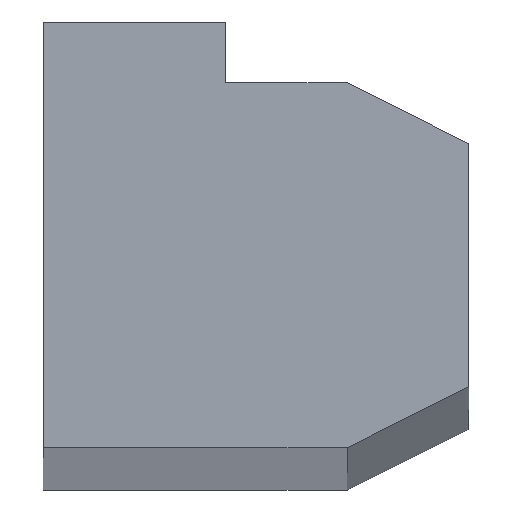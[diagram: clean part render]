
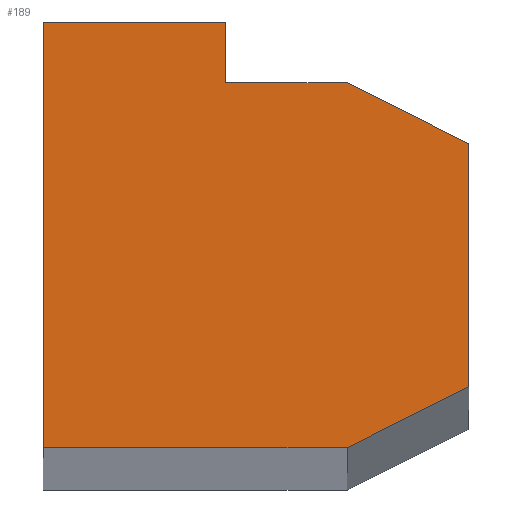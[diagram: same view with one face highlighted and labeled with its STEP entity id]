
A CAD part, top view. The second image highlights one B-rep face of the part: STEP entity #189.
In plain terms, the highlighted planar face has unit normal (0, 0, 1).
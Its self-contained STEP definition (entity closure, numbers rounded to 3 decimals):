
#23=FACE_OUTER_BOUND('',#33,.T.);
#33=EDGE_LOOP('',(#155,#156,#157,#158,#159,#160,#161,#162));
#35=LINE('',#253,#59);
#39=LINE('',#261,#63);
#42=LINE('',#267,#66);
#45=LINE('',#273,#69);
#48=LINE('',#279,#72);
#51=LINE('',#285,#75);
#54=LINE('',#291,#78);
#57=LINE('',#296,#81);
#59=VECTOR('',#207,2.5);
#63=VECTOR('',#213,1.118);
#66=VECTOR('',#218,2.);
#69=VECTOR('',#223,1.118);
#72=VECTOR('',#228,1.);
#75=VECTOR('',#233,0.5);
#78=VECTOR('',#238,1.5);
#81=VECTOR('',#243,3.5);
#83=VERTEX_POINT('',#251);
#84=VERTEX_POINT('',#252);
#87=VERTEX_POINT('',#260);
#89=VERTEX_POINT('',#266);
#91=VERTEX_POINT('',#272);
#93=VERTEX_POINT('',#278);
#95=VERTEX_POINT('',#284);
#97=VERTEX_POINT('',#290);
#99=EDGE_CURVE('',#83,#84,#35,.T.);
#103=EDGE_CURVE('',#84,#87,#39,.T.);
#106=EDGE_CURVE('',#87,#89,#42,.T.);
#109=EDGE_CURVE('',#89,#91,#45,.T.);
#112=EDGE_CURVE('',#91,#93,#48,.T.);
#115=EDGE_CURVE('',#93,#95,#51,.T.);
#118=EDGE_CURVE('',#95,#97,#54,.T.);
#121=EDGE_CURVE('',#97,#83,#57,.T.);
#155=ORIENTED_EDGE('',*,*,#121,.T.);
#156=ORIENTED_EDGE('',*,*,#99,.T.);
#157=ORIENTED_EDGE('',*,*,#103,.T.);
#158=ORIENTED_EDGE('',*,*,#106,.T.);
#159=ORIENTED_EDGE('',*,*,#109,.T.);
#160=ORIENTED_EDGE('',*,*,#112,.T.);
#161=ORIENTED_EDGE('',*,*,#115,.T.);
#162=ORIENTED_EDGE('',*,*,#118,.T.);
#179=PLANE('',#201);
#189=ADVANCED_FACE('',(#23),#179,.T.);
#201=AXIS2_PLACEMENT_3D('',#298,#245,#246);
#207=DIRECTION('',(1.,0.,0.));
#213=DIRECTION('',(0.894,0.447,0.));
#218=DIRECTION('',(0.,1.,0.));
#223=DIRECTION('',(-0.894,0.447,0.));
#228=DIRECTION('',(-1.,0.,0.));
#233=DIRECTION('',(0.,1.,0.));
#238=DIRECTION('',(-1.,0.,0.));
#243=DIRECTION('',(0.,-1.,0.));
#245=DIRECTION('center_axis',(0.,0.,1.));
#246=DIRECTION('ref_axis',(1.,0.,0.));
#251=CARTESIAN_POINT('',(0.32,0.28,0.));
#252=CARTESIAN_POINT('',(2.82,0.28,0.));
#253=CARTESIAN_POINT('',(0.32,0.28,0.));
#260=CARTESIAN_POINT('',(3.82,0.78,0.));
#261=CARTESIAN_POINT('',(2.82,0.28,0.));
#266=CARTESIAN_POINT('',(3.82,2.78,0.));
#267=CARTESIAN_POINT('',(3.82,0.78,0.));
#272=CARTESIAN_POINT('',(2.82,3.28,0.));
#273=CARTESIAN_POINT('',(3.82,2.78,0.));
#278=CARTESIAN_POINT('',(1.82,3.28,0.));
#279=CARTESIAN_POINT('',(2.82,3.28,0.));
#284=CARTESIAN_POINT('',(1.82,3.78,0.));
#285=CARTESIAN_POINT('',(1.82,3.28,0.));
#290=CARTESIAN_POINT('',(0.32,3.78,0.));
#291=CARTESIAN_POINT('',(1.82,3.78,0.));
#296=CARTESIAN_POINT('',(0.32,3.78,0.));
#298=CARTESIAN_POINT('Origin',(1.884,1.969,0.));
